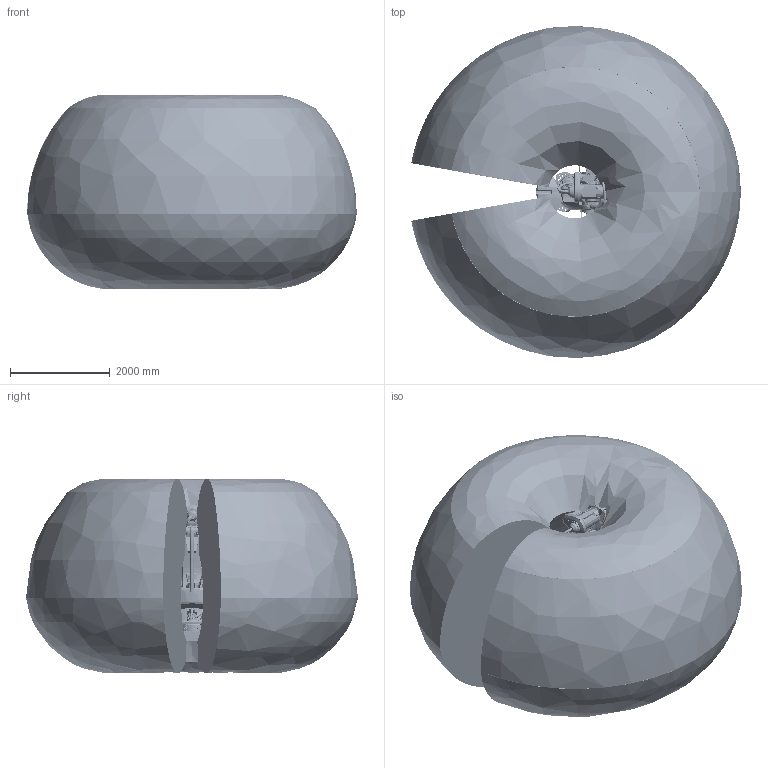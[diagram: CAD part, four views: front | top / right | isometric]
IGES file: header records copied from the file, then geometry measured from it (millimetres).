
Start section: SolidWorks IGES file using analytic representation for surfaces
Global section: file name: C:\Users\SEJAOLS6\OneDrive - ABB\Documents\SAP\7720\7720_Lightweight_models\IRB7720-MH3_510kg-330_OC_01_SW_J\IRB7710-MH3_510kg-330_OC_01_IGES_J\IRB7720-MH3_510kg-330_OC_01_ASM_CAD.igs; native system: SolidWorks 2024; preprocessor: SolidWorks 2024; author: SEJAOLS6; date: 260127.082428; units: millimetre
Bounding box: 6596.2 x 6646.39 x 3895.62 mm (x, y, z)
Surface area: 164171499.5 mm2 (no closed solid volume)
Topology: 0 solids, 0 shells, 9699 faces, 168537 edges, 168376 vertices
Faces by surface type: bspline 5348, revolution 4351
